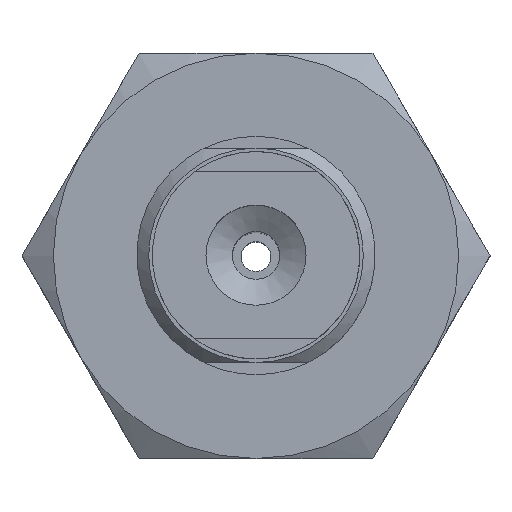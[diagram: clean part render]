
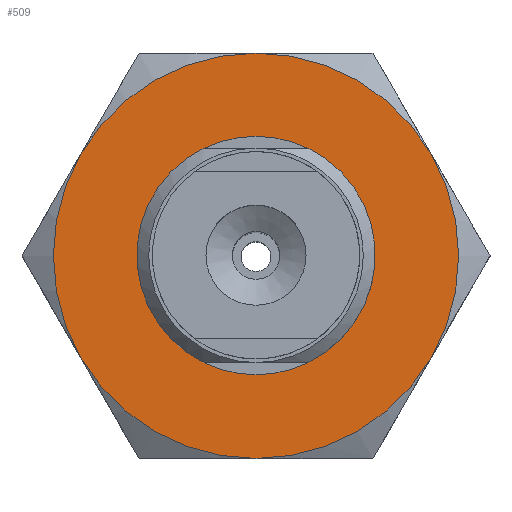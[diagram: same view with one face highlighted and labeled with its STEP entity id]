
A CAD part, top view. The second image highlights one B-rep face of the part: STEP entity #509.
In plain terms, the highlighted planar face has unit normal (0, 0, 1).
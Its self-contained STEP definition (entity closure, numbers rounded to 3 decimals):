
#509=ADVANCED_FACE('',(#800,#801),#802,.T.);
#800=FACE_BOUND('',#1284,.T.);
#801=FACE_OUTER_BOUND('',#1285,.T.);
#802=PLANE('',#1286);
#1284=EDGE_LOOP('',(#2060));
#1285=EDGE_LOOP('',(#2061,#2062,#2063,#2064,#2065,#2066));
#1286=AXIS2_PLACEMENT_3D('',#2067,#2068,#2069);
#2060=ORIENTED_EDGE('',*,*,#3122,.F.);
#2061=ORIENTED_EDGE('',*,*,#3127,.F.);
#2062=ORIENTED_EDGE('',*,*,#3129,.F.);
#2063=ORIENTED_EDGE('',*,*,#3108,.F.);
#2064=ORIENTED_EDGE('',*,*,#3103,.F.);
#2065=ORIENTED_EDGE('',*,*,#3131,.F.);
#2066=ORIENTED_EDGE('',*,*,#3128,.F.);
#2067=CARTESIAN_POINT('',(-9.815,-8.5,4.0));
#2068=DIRECTION('',(0.0,0.0,1.0));
#2069=DIRECTION('',(1.0,0.0,0.0));
#3103=EDGE_CURVE('',#3565,#3568,#3569,.T.);
#3108=EDGE_CURVE('',#3568,#3553,#3575,.T.);
#3122=EDGE_CURVE('',#3599,#3599,#3600,.T.);
#3127=EDGE_CURVE('',#3594,#3603,#3606,.T.);
#3128=EDGE_CURVE('',#3603,#3588,#3607,.T.);
#3129=EDGE_CURVE('',#3553,#3594,#3608,.T.);
#3131=EDGE_CURVE('',#3588,#3565,#3610,.T.);
#3553=VERTEX_POINT('',#4363);
#3565=VERTEX_POINT('',#4393);
#3568=VERTEX_POINT('',#4404);
#3569=CIRCLE('',#4405,8.5);
#3575=CIRCLE('',#4427,8.5);
#3588=VERTEX_POINT('',#4457);
#3594=VERTEX_POINT('',#4476);
#3599=VERTEX_POINT('',#4489);
#3600=CIRCLE('',#4490,4.5);
#3603=VERTEX_POINT('',#4497);
#3606=CIRCLE('',#4508,8.5);
#3607=CIRCLE('',#4509,8.5);
#3608=CIRCLE('',#4510,8.5);
#3610=CIRCLE('',#4512,8.5);
#4363=CARTESIAN_POINT('',(7.361,-4.25,4.0));
#4393=CARTESIAN_POINT('',(0.,8.5,4.0));
#4404=CARTESIAN_POINT('',(7.361,4.25,4.0));
#4405=AXIS2_PLACEMENT_3D('',#5630,#5631,#5632);
#4427=AXIS2_PLACEMENT_3D('',#5633,#5634,#5635);
#4457=CARTESIAN_POINT('',(-7.361,4.25,4.0));
#4476=CARTESIAN_POINT('',(0.,-8.5,4.0));
#4489=CARTESIAN_POINT('',(0.0,-4.5,4.0));
#4490=AXIS2_PLACEMENT_3D('',#5644,#5645,#5646);
#4497=CARTESIAN_POINT('',(-7.361,-4.25,4.0));
#4508=AXIS2_PLACEMENT_3D('',#5650,#5651,#5652);
#4509=AXIS2_PLACEMENT_3D('',#5653,#5654,#5655);
#4510=AXIS2_PLACEMENT_3D('',#5656,#5657,#5658);
#4512=AXIS2_PLACEMENT_3D('',#5662,#5663,#5664);
#5630=CARTESIAN_POINT('',(0.,0.,4.0));
#5631=DIRECTION('',(0.,0.,-1.0));
#5632=DIRECTION('',(0.866,0.5,0.));
#5633=CARTESIAN_POINT('',(0.,0.,4.0));
#5634=DIRECTION('',(0.,0.,-1.0));
#5635=DIRECTION('',(0.866,0.5,0.));
#5644=CARTESIAN_POINT('',(0.0,0.0,4.0));
#5645=DIRECTION('',(0.0,0.,1.0));
#5646=DIRECTION('',(0.0,-1.0,0.));
#5650=CARTESIAN_POINT('',(0.,0.,4.0));
#5651=DIRECTION('',(0.,0.,-1.0));
#5652=DIRECTION('',(0.866,0.5,0.));
#5653=CARTESIAN_POINT('',(0.,0.,4.0));
#5654=DIRECTION('',(0.,0.,-1.0));
#5655=DIRECTION('',(0.866,0.5,0.));
#5656=CARTESIAN_POINT('',(0.,0.,4.0));
#5657=DIRECTION('',(0.,0.,-1.0));
#5658=DIRECTION('',(0.866,0.5,0.));
#5662=CARTESIAN_POINT('',(0.,0.,4.0));
#5663=DIRECTION('',(0.,0.,-1.0));
#5664=DIRECTION('',(0.866,0.5,0.));
